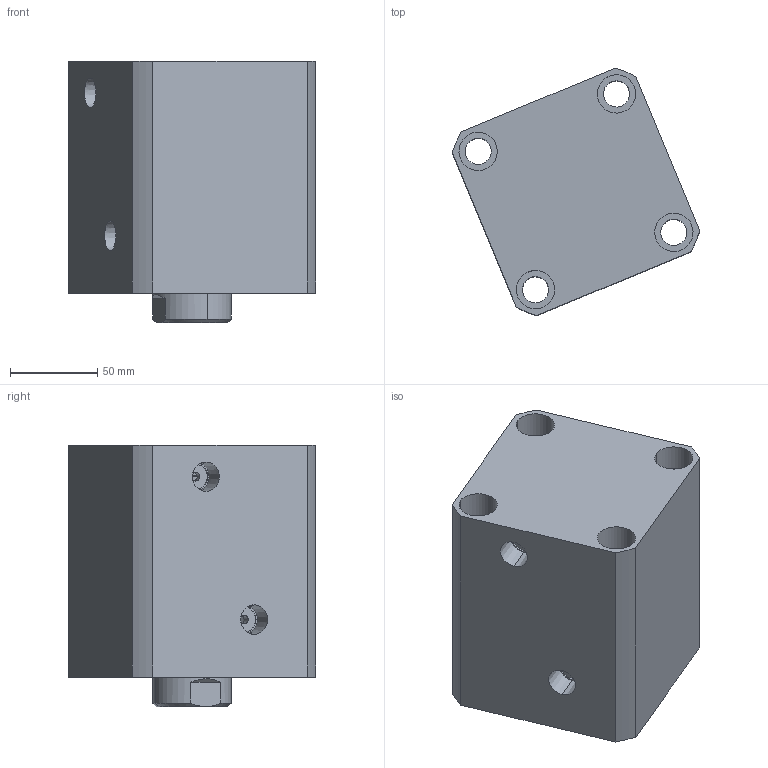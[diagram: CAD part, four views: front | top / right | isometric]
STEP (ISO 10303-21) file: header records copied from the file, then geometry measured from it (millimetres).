
FILE_DESCRIPTION (( 'STEP AP214' ), '1' );
FILE_NAME ('chtb-sd80x55n_asm.STEP', '2018-05-26T04:21:38', ( 'Windows' ), ( 'Microsoft' ), 'SwSTEP 2.0', 'SolidWorks 2015', '' );
FILE_SCHEMA (( 'AUTOMOTIVE_DESIGN' ));
Length unit declared in the file: millimetre
Products named in the file (4): chtb-sd80x55n_asm; CHTB-SD80X55NHSG; CHTB-SD80X55NBT; CHTB-SD80QG
Assembly tree (3 placements, depth 2):
  chtb-sd80x55n_asm
    CHTB-SD80QG
    CHTB-SD80X55NBT
    CHTB-SD80X55NHSG
Bounding box: 142.06 x 142.06 x 150 mm (x, y, z)
Volume: 1383807.2 mm3; surface area: 205748.7 mm2
Topology: 3 solids, 3 shells, 192 faces, 510 edges, 341 vertices
Faces by surface type: cylinder 103, plane 37, cone 20, torus 18, bspline 14
Entity records: 15144 total; most frequent: CARTESIAN_POINT 10435, ORIENTED_EDGE 1008, DIRECTION 889, EDGE_CURVE 504, AXIS2_PLACEMENT_3D 374, VERTEX_POINT 341, EDGE_LOOP 229, FACE_OUTER_BOUND 192
